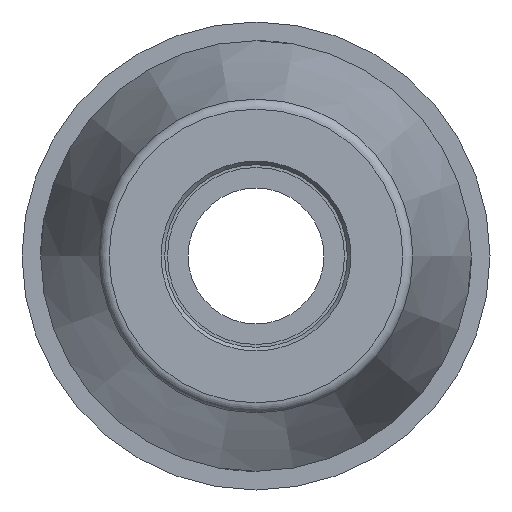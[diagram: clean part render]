
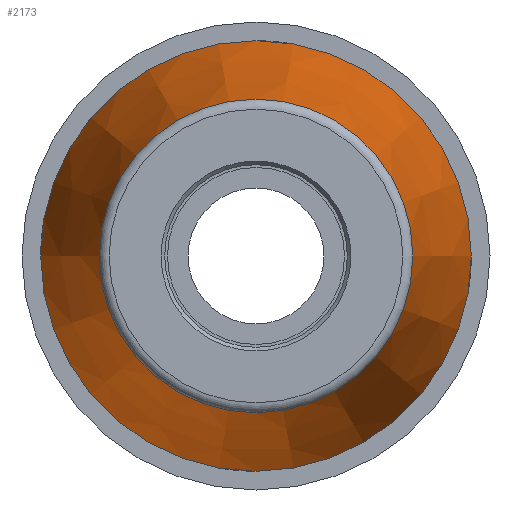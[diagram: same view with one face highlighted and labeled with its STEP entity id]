
A CAD part, left-side view. The second image highlights one B-rep face of the part: STEP entity #2173.
In plain terms, the highlighted conical face has half-angle 13 degrees and reference radius 22.549 mm.
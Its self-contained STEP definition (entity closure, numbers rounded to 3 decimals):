
#390=CONICAL_SURFACE('',#2402,22.549,13.);
#438=FACE_BOUND('',#687,.T.);
#550=FACE_OUTER_BOUND('',#686,.T.);
#686=EDGE_LOOP('',(#1808));
#687=EDGE_LOOP('',(#1809));
#828=CIRCLE('',#2401,19.102);
#829=CIRCLE('',#2403,26.22);
#1019=VERTEX_POINT('',#4301);
#1020=VERTEX_POINT('',#4304);
#1300=EDGE_CURVE('',#1019,#1019,#828,.T.);
#1301=EDGE_CURVE('',#1020,#1020,#829,.T.);
#1808=ORIENTED_EDGE('',*,*,#1301,.F.);
#1809=ORIENTED_EDGE('',*,*,#1300,.F.);
#2173=ADVANCED_FACE('',(#550,#438),#390,.T.);
#2401=AXIS2_PLACEMENT_3D('',#4302,#2945,#2946);
#2402=AXIS2_PLACEMENT_3D('',#4303,#2947,#2948);
#2403=AXIS2_PLACEMENT_3D('',#4305,#2949,#2950);
#2945=DIRECTION('center_axis',(-1.,0.,0.));
#2946=DIRECTION('ref_axis',(0.,-1.,0.));
#2947=DIRECTION('center_axis',(1.,0.,0.));
#2948=DIRECTION('ref_axis',(0.,1.,0.));
#2949=DIRECTION('center_axis',(1.,0.,0.));
#2950=DIRECTION('ref_axis',(0.,0.,-1.));
#4301=CARTESIAN_POINT('',(-64.031,19.102,0.));
#4302=CARTESIAN_POINT('Origin',(-64.031,0.,
0.));
#4303=CARTESIAN_POINT('Origin',(-49.1,0.,0.));
#4304=CARTESIAN_POINT('',(-33.2,26.22,0.));
#4305=CARTESIAN_POINT('Origin',(-33.2,0.,0.));
